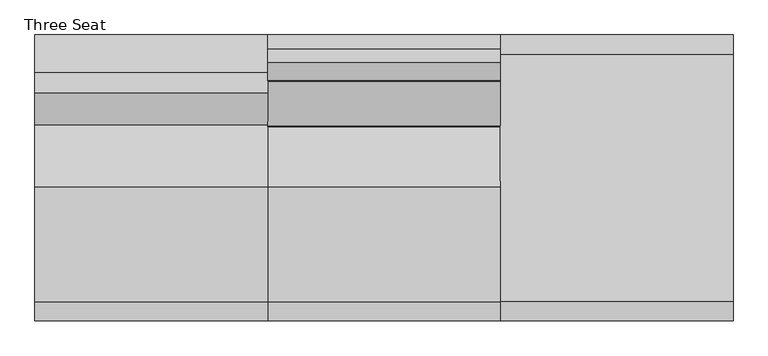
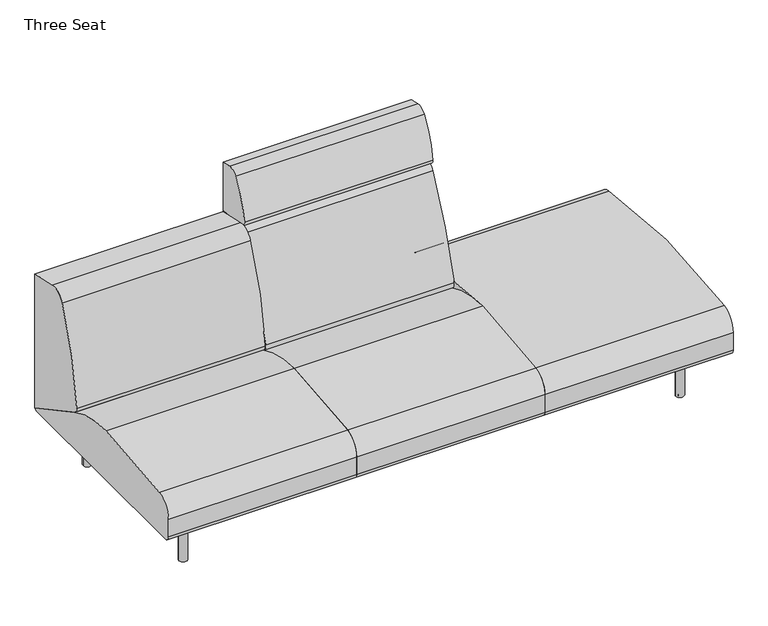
"""IFC4 building model written with IfcOpenShell, lengths in millimetres: furniture geometry, Coalesse_AM_Seating_LoungeChair_Sistema_LegBase_ThreeSeat : Three Seat."""

from ifc_helpers import new_model, si_unit, point, frame, frame_2d, origin, origin_with_axes, place, context, project, spatial, polyline, circle_curve, trimmed, segment, composite_curve, outline, extrude, source, transform, mapped, element, save


def three_seat_15cc3591(model_context):
    return source(origin(), model_context, "Body", "SweptSolid", [
        extrude(outline(composite_curve([segment(polyline([(459.4795619, 775.8234697), (459.4795619, 228.1929806)]), True, "CONTINUOUS"), segment(trimmed(circle_curve(frame_2d((191.495971, 228.1929806)), 267.983591), [point((459.4795619, 228.1929806))], [point((458.9860775, 211.937276))], False, "CARTESIAN"), True, "CONTINUOUS"), segment(polyline([(458.9860775, 211.937276), (183.8457951, 360.6719742)]), True, "CONTINUOUS"), segment(trimmed(circle_curve(frame_2d((195.9245701, 383.0161724)), 25.4), [point((183.8457951, 360.6719742))], [point((170.6161698, 385.1713698))], False, "CARTESIAN"), True, "CONTINUOUS"), segment(trimmed(circle_curve(frame_2d((1327.5544182, 286.6495247)), 1161.1256023), [point((170.6161698, 385.1713698))], [point((271.1088001, 768.4537592))], False, "CARTESIAN"), True, "CONTINUOUS"), segment(trimmed(circle_curve(frame_2d((326.5730192, 743.158661)), 60.96), [point((271.1088001, 768.4537592))], [point((339.9143278, 802.6408523))], False, "CARTESIAN"), True, "CONTINUOUS"), segment(polyline([(339.9143278, 802.6408523), (459.4795619, 775.8234697)]), True, "CONTINUOUS")], self_intersect=False)), frame((-374.8034773, 0.0, 0.0), z_axis=(1.0, 0.0, 0.0), x_axis=(0.0, 1.0, 0.0)), (0.0, 0.0, 1.0), 749.3),
        extrude(outline(composite_curve([segment(trimmed(circle_curve(frame_2d((-438.9184381, 226.822)), 22.352), [point((-438.9184381, 204.47))], [point((-461.2704381, 226.822))], False, "CARTESIAN"), True, "CONTINUOUS"), segment(polyline([(-461.2704381, 226.822), (-461.2704381, 301.4421993)]), True, "CONTINUOUS"), segment(trimmed(circle_curve(frame_2d((-385.0704381, 301.4421993)), 76.2), [point((-461.2704381, 301.4421993))], [point((-398.9277015, 376.3716077))], False, "CARTESIAN"), True, "CONTINUOUS"), segment(trimmed(circle_curve(frame_2d((2.2103559, -1792.6740646)), 2205.8265729), [point((-398.9277015, 376.3716077))], [point((-31.1968175, 412.8995185))], False, "CARTESIAN"), True, "CONTINUOUS"), segment(trimmed(circle_curve(frame_2d((-24.5128424, -28.3829182)), 441.333054), [point((-31.1968175, 412.8995185))], [point((184.5757008, 360.2774035))], False, "CARTESIAN"), True, "CONTINUOUS"), segment(polyline([(184.5757008, 360.2774035), (458.9860775, 211.937276)]), True, "CONTINUOUS"), segment(trimmed(circle_curve(frame_2d((442.3266309, 226.7871991)), 22.3171991), [point((458.9860775, 211.937276))], [point((442.3266309, 204.47))], False, "CARTESIAN"), True, "CONTINUOUS"), segment(polyline([(442.3266309, 204.47), (-438.9184381, 204.47)]), True, "CONTINUOUS")], self_intersect=False)), frame((-374.8034773, 0.0, 0.0), z_axis=(1.0, 0.0, 0.0), x_axis=(0.0, 1.0, 0.0)), (0.0, 0.0, 1.0), 749.3),
        extrude(outline(composite_curve([segment(polyline([(459.4795619, 985.4592709), (459.4795619, 780.845009), (327.9700683, 799.327463)]), True, "CONTINUOUS"), segment(trimmed(circle_curve(frame_2d((330.6213159, 818.1920697)), 19.05), [point((327.9700683, 799.327463))], [point((311.7521971, 820.8110119))], False, "CARTESIAN"), True, "CONTINUOUS"), segment(trimmed(circle_curve(frame_2d((679.5815991, 769.7580741)), 371.3554516), [point((311.7521971, 820.8110119))], [point((372.1246101, 978.0249014))], False, "CARTESIAN"), True, "CONTINUOUS"), segment(trimmed(circle_curve(frame_2d((405.8944569, 955.1497055)), 40.7881985), [point((372.1246101, 978.0249014))], [point((414.3748002, 995.046584))], False, "CARTESIAN"), True, "CONTINUOUS"), segment(polyline([(414.3748002, 995.046584), (459.4795619, 985.4592709)]), True, "CONTINUOUS")], self_intersect=False)), frame((374.4965227, 0.0, 0.0), z_axis=(1.0, 0.0, 0.0), x_axis=(0.0, 1.0, 0.0)), (0.0, 0.0, 1.0), 749.3),
        extrude(outline(composite_curve([segment(polyline([(459.4795619, 780.845009), (459.4795619, 228.1929806)]), True, "CONTINUOUS"), segment(trimmed(circle_curve(frame_2d((191.495971, 228.1929806)), 267.983591), [point((459.4795619, 228.1929806))], [point((458.9860775, 211.937276))], False, "CARTESIAN"), True, "CONTINUOUS"), segment(polyline([(458.9860775, 211.937276), (177.4990556, 364.1028799)]), True, "CONTINUOUS"), segment(trimmed(circle_curve(frame_2d((189.5778307, 386.4470781)), 25.4), [point((177.4990556, 364.1028799))], [point((164.9600055, 392.7018911))], False, "CARTESIAN"), True, "CONTINUOUS"), segment(trimmed(circle_curve(frame_2d((1918.112812, -52.7331923)), 1808.8552115), [point((164.9600055, 392.7018911))], [point((310.2880264, 776.0349508))], False, "CARTESIAN"), True, "CONTINUOUS"), segment(trimmed(circle_curve(frame_2d((344.1537133, 758.5785695)), 38.1), [point((310.2880264, 776.0349508))], [point((349.4562085, 796.3077829))], False, "CARTESIAN"), True, "CONTINUOUS"), segment(polyline([(349.4562085, 796.3077829), (459.4795619, 780.845009)]), True, "CONTINUOUS")], self_intersect=False)), frame((374.4965227, 0.0, 0.0), z_axis=(1.0, 0.0, 0.0), x_axis=(0.0, 1.0, 0.0)), (0.0, 0.0, 1.0), 749.3),
        extrude(outline(composite_curve([segment(trimmed(circle_curve(frame_2d((-438.9184381, 226.822)), 22.352), [point((-438.9184381, 204.47))], [point((-461.2704381, 226.822))], False, "CARTESIAN"), True, "CONTINUOUS"), segment(polyline([(-461.2704381, 226.822), (-461.2704381, 301.4421993)]), True, "CONTINUOUS"), segment(trimmed(circle_curve(frame_2d((-385.0704381, 301.4421993)), 76.2), [point((-461.2704381, 301.4421993))], [point((-398.9277015, 376.3716077))], False, "CARTESIAN"), True, "CONTINUOUS"), segment(trimmed(circle_curve(frame_2d((2.2103559, -1792.6740646)), 2205.8265729), [point((-398.9277015, 376.3716077))], [point((-31.1968175, 412.8995185))], False, "CARTESIAN"), True, "CONTINUOUS"), segment(trimmed(circle_curve(frame_2d((-24.5128424, -28.3829182)), 441.333054), [point((-31.1968175, 412.8995185))], [point((184.5757008, 360.2774035))], False, "CARTESIAN"), True, "CONTINUOUS"), segment(polyline([(184.5757008, 360.2774035), (458.9860775, 211.937276)]), True, "CONTINUOUS"), segment(trimmed(circle_curve(frame_2d((442.3266309, 226.7871991)), 22.3171991), [point((458.9860775, 211.937276))], [point((442.3266309, 204.47))], False, "CARTESIAN"), True, "CONTINUOUS"), segment(polyline([(442.3266309, 204.47), (-438.9184381, 204.47)]), True, "CONTINUOUS")], self_intersect=False)), frame((374.4965227, 0.0, 0.0), z_axis=(1.0, 0.0, 0.0), x_axis=(0.0, 1.0, 0.0)), (0.0, 0.0, 1.0), 749.3),
        extrude(outline(composite_curve([segment(trimmed(circle_curve(frame_2d((-438.9184381, 226.822)), 22.352), [point((-438.9184381, 204.47))], [point((-461.2704381, 226.822))], False, "CARTESIAN"), True, "CONTINUOUS"), segment(polyline([(-461.2704381, 226.822), (-461.2704381, 301.4421993)]), True, "CONTINUOUS"), segment(trimmed(circle_curve(frame_2d((-385.0704381, 301.4421993)), 76.2), [point((-461.2704381, 301.4421993))], [point((-398.9279534, 376.3715612))], False, "CARTESIAN"), True, "CONTINUOUS"), segment(trimmed(circle_curve(frame_2d((-0.3717831, -1778.6727457)), 2191.5891461), [point((-398.9279534, 376.3715612))], [point((397.0993513, 376.5719464))], False, "CARTESIAN"), True, "CONTINUOUS"), segment(trimmed(circle_curve(frame_2d((383.2795619, 301.6356173)), 76.2), [point((397.0993513, 376.5719464))], [point((459.4795619, 301.6356173))], False, "CARTESIAN"), True, "CONTINUOUS"), segment(polyline([(459.4795619, 301.6356173), (459.4795619, 226.7871991)]), True, "CONTINUOUS"), segment(trimmed(circle_curve(frame_2d((437.1623628, 226.7871991)), 22.3171991), [point((459.4795619, 226.7871991))], [point((437.1623628, 204.47))], False, "CARTESIAN"), True, "CONTINUOUS"), segment(polyline([(437.1623628, 204.47), (-438.9184381, 204.47)]), True, "CONTINUOUS")], self_intersect=False)), frame((1123.7965227, 0.0, 0.0), z_axis=(1.0, 0.0, 0.0), x_axis=(0.0, 1.0, 0.0)), (0.0, 0.0, 1.0), 749.3),
        extrude(outline(composite_curve([segment(trimmed(circle_curve(frame_2d((1738.4765227, 335.9943389)), 6.096), [point((1744.5725227, 335.9943389))], [point((1732.3805227, 335.9943389))], False, "CARTESIAN"), True, "CONTINUOUS"), segment(trimmed(circle_curve(frame_2d((1738.4765227, 335.9943389)), 6.096), [point((1732.3805227, 335.9943389))], [point((1744.5725227, 335.9943389))], False, "CARTESIAN"), True, "CONTINUOUS")], self_intersect=False)), origin_with_axes(), (0.0, 0.0, 1.0), 4.3662291),
        extrude(outline(composite_curve([segment(trimmed(circle_curve(frame_2d((1738.4765227, -327.2630889)), 6.096), [point((1744.5725227, -327.2630889))], [point((1732.3805227, -327.2630889))], False, "CARTESIAN"), True, "CONTINUOUS"), segment(trimmed(circle_curve(frame_2d((1738.4765227, -327.2630889)), 6.096), [point((1732.3805227, -327.2630889))], [point((1744.5725227, -327.2630889))], False, "CARTESIAN"), True, "CONTINUOUS")], self_intersect=False)), origin_with_axes(), (0.0, 0.0, 1.0), 4.3662291),
        extrude(outline(composite_curve([segment(polyline([(157.0399209, 1751.056375), (201.7356243, 1751.056375)]), True, "CONTINUOUS"), segment(trimmed(circle_curve(frame_2d((201.7356243, 1748.008375)), 3.048), [point((201.7356243, 1751.056375))], [point((204.7836243, 1748.008375))], False, "CARTESIAN"), True, "CONTINUOUS"), segment(polyline([(204.7836243, 1748.008375), (204.7836243, 1728.666199)]), True, "CONTINUOUS"), segment(trimmed(circle_curve(frame_2d((201.7356243, 1728.666199)), 3.048), [point((204.7836243, 1728.666199))], [point((201.7356243, 1725.618199))], False, "CARTESIAN"), True, "CONTINUOUS"), segment(polyline([(201.7356243, 1725.618199), (157.1249936, 1725.618199)]), True, "CONTINUOUS"), segment(trimmed(circle_curve(frame_2d((157.1249936, 1728.7512718)), 3.1330728), [point((157.1249936, 1725.618199))], [point((153.9919209, 1728.7512718))], False, "CARTESIAN"), True, "CONTINUOUS"), segment(polyline([(153.9919209, 1728.7512718), (153.9919209, 1748.008375)]), True, "CONTINUOUS"), segment(trimmed(circle_curve(frame_2d((157.0399209, 1748.008375)), 3.048), [point((153.9919209, 1748.008375))], [point((157.0399209, 1751.056375))], False, "CARTESIAN"), True, "CONTINUOUS")], self_intersect=False)), frame((0.0, 222.3519802, 0.0), z_axis=(0.0, 1.0, 0.0), x_axis=(0.0, 0.0, 1.0)), (0.0, 0.0, 1.0), 92.6273161),
        extrude(outline(composite_curve([segment(polyline([(157.0399209, 1751.056375), (201.7356243, 1751.056375)]), True, "CONTINUOUS"), segment(trimmed(circle_curve(frame_2d((201.7356243, 1748.008375)), 3.048), [point((201.7356243, 1751.056375))], [point((204.7836243, 1748.008375))], False, "CARTESIAN"), True, "CONTINUOUS"), segment(polyline([(204.7836243, 1748.008375), (204.7836243, 1728.666199)]), True, "CONTINUOUS"), segment(trimmed(circle_curve(frame_2d((201.7356243, 1728.666199)), 3.048), [point((204.7836243, 1728.666199))], [point((201.7356243, 1725.618199))], False, "CARTESIAN"), True, "CONTINUOUS"), segment(polyline([(201.7356243, 1725.618199), (157.1249936, 1725.618199)]), True, "CONTINUOUS"), segment(trimmed(circle_curve(frame_2d((157.1249936, 1728.7512718)), 3.1330728), [point((157.1249936, 1725.618199))], [point((153.9919209, 1728.7512718))], False, "CARTESIAN"), True, "CONTINUOUS"), segment(polyline([(153.9919209, 1728.7512718), (153.9919209, 1748.008375)]), True, "CONTINUOUS"), segment(trimmed(circle_curve(frame_2d((157.0399209, 1748.008375)), 3.048), [point((153.9919209, 1748.008375))], [point((157.0399209, 1751.056375))], False, "CARTESIAN"), True, "CONTINUOUS")], self_intersect=False)), frame((0.0, -314.9792963, 0.0), z_axis=(0.0, 1.0, 0.0), x_axis=(0.0, 0.0, 1.0)), (0.0, 0.0, 1.0), 92.6273161),
        extrude(outline(composite_curve([segment(trimmed(circle_curve(frame_2d((176.3356606, 1715.8259944)), 3.048), [point((179.3836606, 1715.8259944))], [point((176.3356606, 1712.7779944))], False, "CARTESIAN"), True, "CONTINUOUS"), segment(polyline([(176.3356606, 1712.7779944), (157.0399209, 1712.7779944)]), True, "CONTINUOUS"), segment(trimmed(circle_curve(frame_2d((157.0399209, 1715.8259944)), 3.048), [point((157.0399209, 1712.7779944))], [point((153.9919209, 1715.8259944))], False, "CARTESIAN"), True, "CONTINUOUS"), segment(polyline([(153.9919209, 1715.8259944), (153.9919209, 1760.5135501)]), True, "CONTINUOUS"), segment(trimmed(circle_curve(frame_2d((157.056462, 1760.5135501)), 3.0645412), [point((153.9919209, 1760.5135501))], [point((157.056462, 1763.5780913))], False, "CARTESIAN"), True, "CONTINUOUS"), segment(polyline([(157.056462, 1763.5780913), (176.3356606, 1763.5780913)]), True, "CONTINUOUS"), segment(trimmed(circle_curve(frame_2d((176.3356606, 1760.5300913)), 3.048), [point((176.3356606, 1763.5780913))], [point((179.3836606, 1760.5300913))], False, "CARTESIAN"), True, "CONTINUOUS"), segment(polyline([(179.3836606, 1760.5300913), (179.3836606, 1715.8259944)]), True, "CONTINUOUS")], self_intersect=False)), frame((0.0, -222.3519802, 0.0), z_axis=(0.0, 1.0, 0.0), x_axis=(0.0, 0.0, 1.0)), (0.0, 0.0, 1.0), 444.7039604),
        extrude(outline(composite_curve([segment(trimmed(circle_curve(frame_2d((1738.4765227, 332.3095741)), 16.51), [point((1754.9865227, 332.3095741))], [point((1721.9665227, 332.3095741))], False, "CARTESIAN"), True, "CONTINUOUS"), segment(trimmed(circle_curve(frame_2d((1738.4765227, 332.3095741)), 16.51), [point((1721.9665227, 332.3095741))], [point((1754.9865227, 332.3095741))], False, "CARTESIAN"), True, "CONTINUOUS")], self_intersect=False)), frame((0.0, 0.0, 4.3662291), z_axis=(0.0, 0.0, 1.0), x_axis=(1.0, 0.0, 0.0)), (0.0, 0.0, 1.0), 200.1037709),
        extrude(outline(composite_curve([segment(trimmed(circle_curve(frame_2d((1738.0796477, -327.5470741)), 16.51), [point((1754.5896477, -327.5470741))], [point((1721.5696477, -327.5470741))], False, "CARTESIAN"), True, "CONTINUOUS"), segment(trimmed(circle_curve(frame_2d((1738.0796477, -327.5470741)), 16.51), [point((1721.5696477, -327.5470741))], [point((1754.5896477, -327.5470741))], False, "CARTESIAN"), True, "CONTINUOUS")], self_intersect=False)), frame((0.0, 0.0, 4.3662291), z_axis=(0.0, 0.0, 1.0), x_axis=(1.0, 0.0, 0.0)), (0.0, 0.0, 1.0), 200.1037709),
        extrude(outline(composite_curve([segment(trimmed(circle_curve(frame_2d((-240.1834773, 335.9943389)), 6.096), [point((-246.2794773, 335.9943389))], [point((-234.0874773, 335.9943389))], False, "CARTESIAN"), True, "CONTINUOUS"), segment(trimmed(circle_curve(frame_2d((-240.1834773, 335.9943389)), 6.096), [point((-234.0874773, 335.9943389))], [point((-246.2794773, 335.9943389))], False, "CARTESIAN"), True, "CONTINUOUS")], self_intersect=False)), origin_with_axes(), (0.0, 0.0, 1.0), 4.3662291),
        extrude(outline(composite_curve([segment(trimmed(circle_curve(frame_2d((-240.1834773, -327.2630889)), 6.096), [point((-246.2794773, -327.2630889))], [point((-234.0874773, -327.2630889))], False, "CARTESIAN"), True, "CONTINUOUS"), segment(trimmed(circle_curve(frame_2d((-240.1834773, -327.2630889)), 6.096), [point((-234.0874773, -327.2630889))], [point((-246.2794773, -327.2630889))], False, "CARTESIAN"), True, "CONTINUOUS")], self_intersect=False)), origin_with_axes(), (0.0, 0.0, 1.0), 4.3662291),
        extrude(outline(composite_curve([segment(trimmed(circle_curve(frame_2d((157.0399209, -249.7153296)), 3.048), [point((157.0399209, -252.7633296))], [point((153.9919209, -249.7153296))], False, "CARTESIAN"), True, "CONTINUOUS"), segment(polyline([(153.9919209, -249.7153296), (153.9919209, -230.4582264)]), True, "CONTINUOUS"), segment(trimmed(circle_curve(frame_2d((157.1249936, -230.4582264)), 3.1330728), [point((153.9919209, -230.4582264))], [point((157.1249936, -227.3251537))], False, "CARTESIAN"), True, "CONTINUOUS"), segment(polyline([(157.1249936, -227.3251537), (201.7356243, -227.3251537)]), True, "CONTINUOUS"), segment(trimmed(circle_curve(frame_2d((201.7356243, -230.3731537)), 3.048), [point((201.7356243, -227.3251537))], [point((204.7836243, -230.3731537))], False, "CARTESIAN"), True, "CONTINUOUS"), segment(polyline([(204.7836243, -230.3731537), (204.7836243, -249.7153296)]), True, "CONTINUOUS"), segment(trimmed(circle_curve(frame_2d((201.7356243, -249.7153296)), 3.048), [point((204.7836243, -249.7153296))], [point((201.7356243, -252.7633296))], False, "CARTESIAN"), True, "CONTINUOUS"), segment(polyline([(201.7356243, -252.7633296), (157.0399209, -252.7633296)]), True, "CONTINUOUS")], self_intersect=False)), frame((0.0, 222.3519802, 0.0), z_axis=(0.0, 1.0, 0.0), x_axis=(0.0, 0.0, 1.0)), (0.0, 0.0, 1.0), 92.6273161),
        extrude(outline(composite_curve([segment(trimmed(circle_curve(frame_2d((157.0399209, -249.7153296)), 3.048), [point((157.0399209, -252.7633296))], [point((153.9919209, -249.7153296))], False, "CARTESIAN"), True, "CONTINUOUS"), segment(polyline([(153.9919209, -249.7153296), (153.9919209, -230.4582264)]), True, "CONTINUOUS"), segment(trimmed(circle_curve(frame_2d((157.1249936, -230.4582264)), 3.1330728), [point((153.9919209, -230.4582264))], [point((157.1249936, -227.3251537))], False, "CARTESIAN"), True, "CONTINUOUS"), segment(polyline([(157.1249936, -227.3251537), (201.7356243, -227.3251537)]), True, "CONTINUOUS"), segment(trimmed(circle_curve(frame_2d((201.7356243, -230.3731537)), 3.048), [point((201.7356243, -227.3251537))], [point((204.7836243, -230.3731537))], False, "CARTESIAN"), True, "CONTINUOUS"), segment(polyline([(204.7836243, -230.3731537), (204.7836243, -249.7153296)]), True, "CONTINUOUS"), segment(trimmed(circle_curve(frame_2d((201.7356243, -249.7153296)), 3.048), [point((204.7836243, -249.7153296))], [point((201.7356243, -252.7633296))], False, "CARTESIAN"), True, "CONTINUOUS"), segment(polyline([(201.7356243, -252.7633296), (157.0399209, -252.7633296)]), True, "CONTINUOUS")], self_intersect=False)), frame((0.0, -314.9792963, 0.0), z_axis=(0.0, 1.0, 0.0), x_axis=(0.0, 0.0, 1.0)), (0.0, 0.0, 1.0), 92.6273161),
        extrude(outline(composite_curve([segment(polyline([(179.3836606, -217.532949), (179.3836606, -262.2370459)]), True, "CONTINUOUS"), segment(trimmed(circle_curve(frame_2d((176.3356606, -262.2370459)), 3.048), [point((179.3836606, -262.2370459))], [point((176.3356606, -265.2850459))], False, "CARTESIAN"), True, "CONTINUOUS"), segment(polyline([(176.3356606, -265.2850459), (157.056462, -265.2850459)]), True, "CONTINUOUS"), segment(trimmed(circle_curve(frame_2d((157.056462, -262.2205047)), 3.0645412), [point((157.056462, -265.2850459))], [point((153.9919209, -262.2205047))], False, "CARTESIAN"), True, "CONTINUOUS"), segment(polyline([(153.9919209, -262.2205047), (153.9919209, -217.532949)]), True, "CONTINUOUS"), segment(trimmed(circle_curve(frame_2d((157.0399209, -217.532949)), 3.048), [point((153.9919209, -217.532949))], [point((157.0399209, -214.484949))], False, "CARTESIAN"), True, "CONTINUOUS"), segment(polyline([(157.0399209, -214.484949), (176.3356606, -214.484949)]), True, "CONTINUOUS"), segment(trimmed(circle_curve(frame_2d((176.3356606, -217.532949)), 3.048), [point((176.3356606, -214.484949))], [point((179.3836606, -217.532949))], False, "CARTESIAN"), True, "CONTINUOUS")], self_intersect=False)), frame((0.0, -222.3519802, 0.0), z_axis=(0.0, 1.0, 0.0), x_axis=(0.0, 0.0, 1.0)), (0.0, 0.0, 1.0), 444.7039604),
        extrude(outline(composite_curve([segment(trimmed(circle_curve(frame_2d((-240.1834773, 332.3095741)), 16.51), [point((-256.6934773, 332.3095741))], [point((-223.6734773, 332.3095741))], False, "CARTESIAN"), True, "CONTINUOUS"), segment(trimmed(circle_curve(frame_2d((-240.1834773, 332.3095741)), 16.51), [point((-223.6734773, 332.3095741))], [point((-256.6934773, 332.3095741))], False, "CARTESIAN"), True, "CONTINUOUS")], self_intersect=False)), frame((0.0, 0.0, 4.3662291), z_axis=(0.0, 0.0, 1.0), x_axis=(1.0, 0.0, 0.0)), (0.0, 0.0, 1.0), 200.1037709),
        extrude(outline(composite_curve([segment(trimmed(circle_curve(frame_2d((-239.7866023, -327.5470741)), 16.51), [point((-256.2966023, -327.5470741))], [point((-223.2766023, -327.5470741))], False, "CARTESIAN"), True, "CONTINUOUS"), segment(trimmed(circle_curve(frame_2d((-239.7866023, -327.5470741)), 16.51), [point((-223.2766023, -327.5470741))], [point((-256.2966023, -327.5470741))], False, "CARTESIAN"), True, "CONTINUOUS")], self_intersect=False)), frame((0.0, 0.0, 4.3662291), z_axis=(0.0, 0.0, 1.0), x_axis=(1.0, 0.0, 0.0)), (0.0, 0.0, 1.0), 200.1037709),
    ])


if __name__ == "__main__":
    model = new_model("IFC4")
    model_context = context("Model", 3, world=origin())
    ifc_project = project(units=[si_unit("LENGTHUNIT", "METRE", prefix="MILLI")], contexts=[model_context])
    site = spatial("IfcSite", under=ifc_project)
    building = spatial("IfcBuilding", under=site)
    placement = place(None, origin())
    three_seat_shape = three_seat_15cc3591(model_context)
    element("IfcFurniture", 1, ObjectType="Coalesse_AM_Seating_LoungeChair_Sistema_LegBase_ThreeSeat : Three Seat", at=placement, inside=building, context=model_context, shape_type="MappedRepresentation", body=[
        mapped(three_seat_shape, transform((0.0, 0.0, 0.0), x_axis=(1.0, 0.0, 0.0), y_axis=(0.0, 1.0, 0.0), z_axis=(0.0, 0.0, 1.0))),
    ])
    save(model, "model.ifc")
